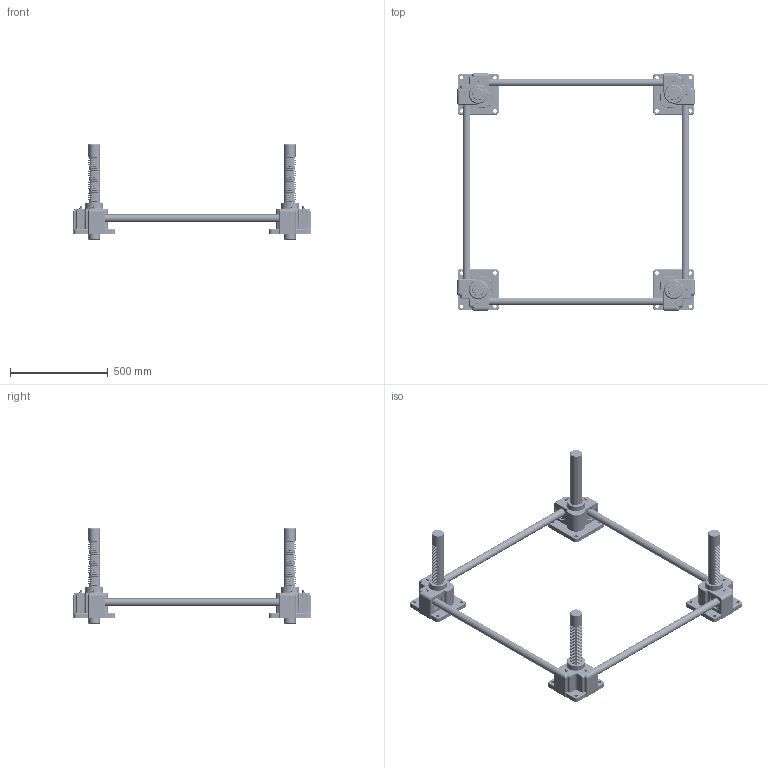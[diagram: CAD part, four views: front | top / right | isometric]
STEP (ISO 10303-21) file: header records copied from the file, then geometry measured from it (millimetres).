
FILE_DESCRIPTION(('STEP AP203'),'1');
FILE_NAME('SP20000U-1000x1000-300ST.stp','2022-06-15T02:31:43',(' '),(' '),'Spatial InterOp 3D',' ',' ');
FILE_SCHEMA(('CONFIG_CONTROL_DESIGN'));
Length unit declared in the file: millimetre
Products named in the file (75): SP20000U-1000x1000-300ST; ASSEM1; Body.1-Part; Nipple; b6208zz; Du Bush; SnapRing-78Pie; SnapRing-83.5Pie; Gear Box.1(NSP-20000); RJ05-4SCJ-610X600-100ST_CAP; LABEL-B.1; ___; 파트18; __; Body.2-Part; Gear Box.2(NSP-20000); Body.3-Part; Gear Box.3(NSP-20000); Body.4-Part; Gear Box.4(NSP-20000); Shaft.1; Shaft.2
Assembly tree (76 placements, depth 6):
  SP20000U-1000x1000-300ST
    ASSEM1
    (unnamed)
    (unnamed)
    (unnamed)
    Body.1-Part
      Nipple
      Nipple
      b6208zz
      b6208zz
      Du Bush
      Du Bush
      SnapRing-78Pie
      SnapRing-78Pie
      SnapRing-83.5Pie
      SnapRing-83.5Pie
      Gear Box.1(NSP-20000)
      __
        ___
          RJ05-4SCJ-610X600-100ST_CAP
            LABEL-B.1
          파트18
    Body.2-Part
      Nipple
      Nipple
      b6208zz
      b6208zz
      Du Bush
      Du Bush
      SnapRing-78Pie
      SnapRing-78Pie
      SnapRing-83.5Pie
      SnapRing-83.5Pie
      Gear Box.2(NSP-20000)
      __
        ___
          RJ05-4SCJ-610X600-100ST_CAP
            LABEL-B.1
          파트18
    Body.3-Part
      Nipple
      Nipple
      b6208zz
      b6208zz
      Du Bush
      Du Bush
      SnapRing-78Pie
      SnapRing-78Pie
      SnapRing-83.5Pie
      SnapRing-83.5Pie
      Gear Box.3(NSP-20000)
      __
        ___
          RJ05-4SCJ-610X600-100ST_CAP
            LABEL-B.1
          파트18
    Body.4-Part
      Nipple
      Nipple
      b6208zz
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Bounding box: 1216.5 x 1216.5 x 490 mm (x, y, z)
Volume: 18543930.2 mm3; surface area: 2484832.2 mm2
Topology: 84 solids, 84 shells, 10080 faces, 27775 edges, 17819 vertices
Faces by surface type: plane 8012, cylinder 1236, sphere 352, torus 264, cone 128, bspline 64, revolution 24
Full cylindrical faces by diameter (mm): 4.379 x16, 4.69 x16, 5.6 x8, 8 x8, 9.886 x8, 18 x20, 30 x8, 40 x12, 44 x8, 49.543 x16, 60 x12, 64 x4, 70 x16, 70.313 x16, 75 x8, 78 x8, 80 x16, 80.4 x8, 83.5 x8, 94 x4
Entity records: 322988 total; most frequent: CARTESIAN_POINT 68061, ORIENTED_EDGE 52912, DIRECTION 49566, EDGE_CURVE 26456, LINE 22160, VECTOR 22160, VERTEX_POINT 17380, AXIS2_PLACEMENT_3D 13691
